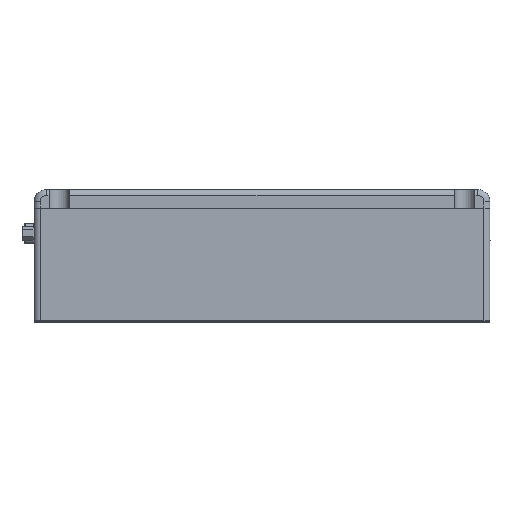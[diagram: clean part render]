
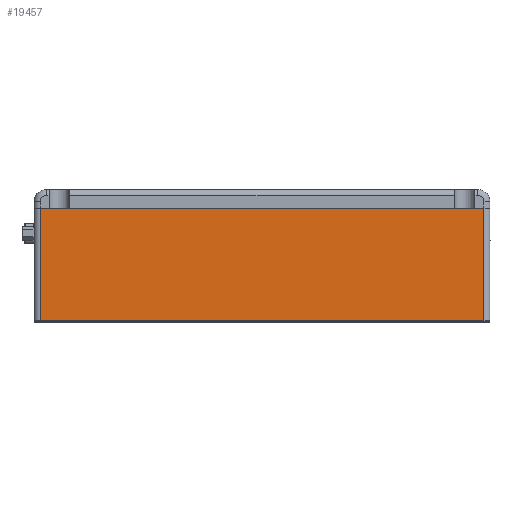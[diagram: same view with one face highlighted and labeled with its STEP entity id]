
A CAD part, top view. The second image highlights one B-rep face of the part: STEP entity #19457.
In plain terms, the highlighted planar face has unit normal (0, 0, 1).
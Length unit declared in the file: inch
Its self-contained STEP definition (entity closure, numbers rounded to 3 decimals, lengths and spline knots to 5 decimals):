
#1252 = EDGE_CURVE ( 'NONE', #11188, #34463, #50885, .T. ) ;
#2160 = DIRECTION ( 'NONE',  ( 1., 0., 0. ) ) ;
#3652 = ORIENTED_EDGE ( 'NONE', *, *, #51693, .F. ) ;
#3846 = VECTOR ( 'NONE', #38794, 39.37008 ) ;
#4595 = CARTESIAN_POINT ( 'NONE',  ( 0.09375, 1.765, 3.05118 ) ) ;
#7586 = ORIENTED_EDGE ( 'NONE', *, *, #12195, .T. ) ;
#11188 = VERTEX_POINT ( 'NONE', #37738 ) ;
#11433 = AXIS2_PLACEMENT_3D ( 'NONE', #14738, #48680, #19602 ) ;
#11650 = VERTEX_POINT ( 'NONE', #47023 ) ;
#12195 = EDGE_CURVE ( 'NONE', #11650, #11188, #21122, .T. ) ;
#13150 = ORIENTED_EDGE ( 'NONE', *, *, #1252, .T. ) ;
#14738 = CARTESIAN_POINT ( 'NONE',  ( 0.09375, 1.765, 3.05118 ) ) ;
#15055 = ORIENTED_EDGE ( 'NONE', *, *, #47391, .F. ) ;
#19457 = ADVANCED_FACE ( 'NONE', ( #53869 ), #48474, .F. ) ;
#19460 = CARTESIAN_POINT ( 'NONE',  ( 6.99286, 1.765, 3.05118 ) ) ;
#19602 = DIRECTION ( 'NONE',  ( -1., 0., 0. ) ) ;
#20992 = CARTESIAN_POINT ( 'NONE',  ( 0.09375, 1.765, 3.05118 ) ) ;
#21122 = LINE ( 'NONE', #4595, #32477 ) ;
#23001 = CARTESIAN_POINT ( 'NONE',  ( 6.99286, 0.015, 3.05118 ) ) ;
#24635 = CARTESIAN_POINT ( 'NONE',  ( 6.99286, 1.765, 3.05118 ) ) ;
#25011 = VECTOR ( 'NONE', #49198, 39.37008 ) ;
#29554 = VERTEX_POINT ( 'NONE', #24635 ) ;
#32444 = LINE ( 'NONE', #20992, #58348 ) ;
#32477 = VECTOR ( 'NONE', #33815, 39.37008 ) ;
#33815 = DIRECTION ( 'NONE',  ( 0., -1., 0. ) ) ;
#34463 = VERTEX_POINT ( 'NONE', #23001 ) ;
#37738 = CARTESIAN_POINT ( 'NONE',  ( 0.09375, 0.015, 3.05118 ) ) ;
#38794 = DIRECTION ( 'NONE',  ( 0., -1., 0. ) ) ;
#47023 = CARTESIAN_POINT ( 'NONE',  ( 0.09375, 1.765, 3.05118 ) ) ;
#47391 = EDGE_CURVE ( 'NONE', #29554, #34463, #55518, .T. ) ;
#47918 = EDGE_LOOP ( 'NONE', ( #7586, #13150, #15055, #3652 ) ) ;
#48474 = PLANE ( 'NONE',  #11433 ) ;
#48680 = DIRECTION ( 'NONE',  ( 0., 0., -1. ) ) ;
#49198 = DIRECTION ( 'NONE',  ( 1., 0., 0. ) ) ;
#50885 = LINE ( 'NONE', #54120, #25011 ) ;
#51693 = EDGE_CURVE ( 'NONE', #11650, #29554, #32444, .T. ) ;
#53869 = FACE_OUTER_BOUND ( 'NONE', #47918, .T. ) ;
#54120 = CARTESIAN_POINT ( 'NONE',  ( 6.99286, 0.015, 3.05118 ) ) ;
#55518 = LINE ( 'NONE', #19460, #3846 ) ;
#58348 = VECTOR ( 'NONE', #2160, 39.37008 ) ;
